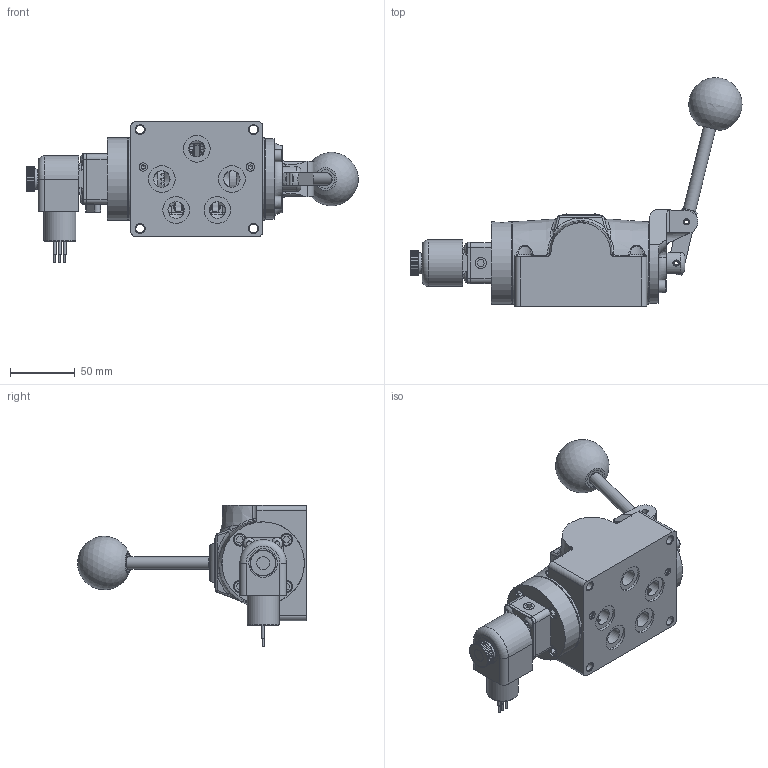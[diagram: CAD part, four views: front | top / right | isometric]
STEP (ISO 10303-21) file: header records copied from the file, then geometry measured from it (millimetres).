
FILE_DESCRIPTION(/* description */ (''),/* implementation_level */ '2;1');
FILE_NAME(/* name */ 'ESAH4PXOLZ.stp',/* time_stamp */ '2026-09-20T10:08:31-04:00',/* author */ ('rmckenna'),/* organization */ (''),/* preprocessor_version */ 'ST-DEVELOPER v20.2',/* originating_system */ 'Autodesk Inventor 2027',/* authorisation */ '');
FILE_SCHEMA (('AUTOMOTIVE_DESIGN { 1 0 10303 214 3 1 1 }'));
Products named in the file (1): Part41
Bounding box: 255.85 x 176.33 x 108.78 mm (x, y, z)
Volume: 648090.3 mm3; surface area: 149703.7 mm2
Topology: 2 solids, 34 shells, 2310 faces, 5732 edges, 3623 vertices
Faces by surface type: plane 919, cylinder 551, bspline 334, cone 323, torus 160, sphere 23
Full cylindrical faces by diameter (mm): 1.3 x1, 1.397 x1, 1.5 x1, 1.524 x3, 2.032 x11, 2.07 x2, 2.261 x2, 2.35 x4, 2.388 x1, 2.5 x1, 2.778 x2, 2.8 x1, 3 x4, 3.048 x5, 3.175 x4, 3.4 x1, 3.683 x6, 4.191 x2, 4.75 x2, 4.763 x2, 4.826 x4, 4.978 x8, 5.15 x4, 5.156 x4, 5.5 x1, 5.556 x1, 6.35 x10, 6.629 x4, 6.65 x1, 6.747 x4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
Entity records: 85078 total; most frequent: CARTESIAN_POINT 29753, ORIENTED_EDGE 11388, DIRECTION 10275, EDGE_CURVE 5694, AXIS2_PLACEMENT_3D 3929, VERTEX_POINT 3622, EDGE_LOOP 2570, LINE 2417
